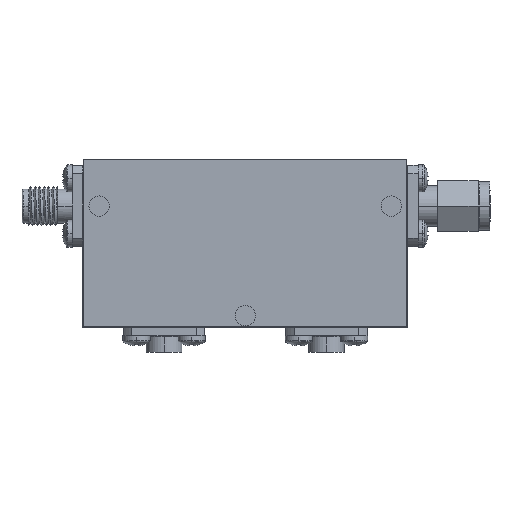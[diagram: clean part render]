
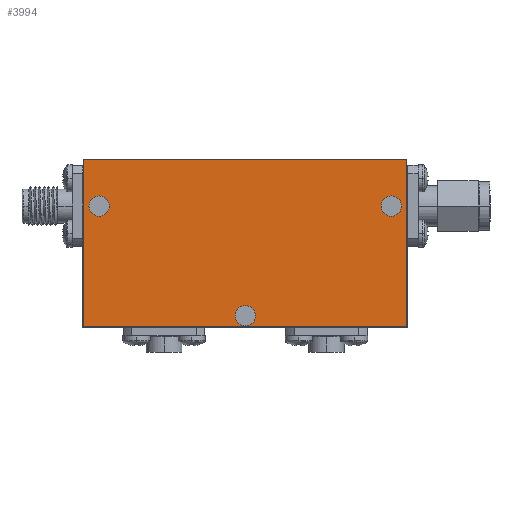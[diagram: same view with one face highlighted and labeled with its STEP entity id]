
A CAD part, top view. The second image highlights one B-rep face of the part: STEP entity #3994.
In plain terms, the highlighted planar face has unit normal (0, 0, 1).
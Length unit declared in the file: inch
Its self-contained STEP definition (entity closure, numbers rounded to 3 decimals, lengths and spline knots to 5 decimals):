
#70 = VECTOR ( 'NONE', #6876, 39.37008 ) ;
#100 = CARTESIAN_POINT ( 'NONE',  ( 0.0625, -0.445, 0.574 ) ) ;
#167 = VERTEX_POINT ( 'NONE', #4343 ) ;
#261 = VERTEX_POINT ( 'NONE', #1803 ) ;
#295 = FACE_BOUND ( 'NONE', #5810, .T. ) ;
#489 = CARTESIAN_POINT ( 'NONE',  ( -0.995, -0.515, 0.574 ) ) ;
#594 = EDGE_LOOP ( 'NONE', ( #1405, #4993, #6717, #1090 ) ) ;
#672 = VERTEX_POINT ( 'NONE', #5845 ) ;
#677 = ORIENTED_EDGE ( 'NONE', *, *, #6039, .F. ) ;
#704 = EDGE_CURVE ( 'NONE', #752, #4664, #2320, .T. ) ;
#752 = VERTEX_POINT ( 'NONE', #5919 ) ;
#864 = AXIS2_PLACEMENT_3D ( 'NONE', #6334, #6314, #6826 ) ;
#954 = AXIS2_PLACEMENT_3D ( 'NONE', #4988, #6524, #4603 ) ;
#1090 = ORIENTED_EDGE ( 'NONE', *, *, #4236, .T. ) ;
#1212 = DIRECTION ( 'NONE',  ( 1., 0., 0. ) ) ;
#1290 = VERTEX_POINT ( 'NONE', #2152 ) ;
#1336 = VECTOR ( 'NONE', #2262, 39.37008 ) ;
#1367 = VERTEX_POINT ( 'NONE', #5635 ) ;
#1405 = ORIENTED_EDGE ( 'NONE', *, *, #5700, .T. ) ;
#1425 = AXIS2_PLACEMENT_3D ( 'NONE', #4306, #1532, #3752 ) ;
#1455 = ORIENTED_EDGE ( 'NONE', *, *, #2909, .F. ) ;
#1532 = DIRECTION ( 'NONE',  ( 0., 0., 1. ) ) ;
#1556 = CARTESIAN_POINT ( 'NONE',  ( -0.9625, 0.23, 0.574 ) ) ;
#1594 = ORIENTED_EDGE ( 'NONE', *, *, #4592, .F. ) ;
#1634 = EDGE_CURVE ( 'NONE', #5860, #3728, #2697, .T. ) ;
#1685 = EDGE_LOOP ( 'NONE', ( #677, #1790 ) ) ;
#1790 = ORIENTED_EDGE ( 'NONE', *, *, #4688, .F. ) ;
#1803 = CARTESIAN_POINT ( 'NONE',  ( 0.8375, 0.23, 0.574 ) ) ;
#1810 = LINE ( 'NONE', #4174, #4838 ) ;
#1815 = CIRCLE ( 'NONE', #4821, 0.0625 ) ;
#2039 = AXIS2_PLACEMENT_3D ( 'NONE', #3834, #3317, #3770 ) ;
#2152 = CARTESIAN_POINT ( 'NONE',  ( 0.995, 0.515, 0.574 ) ) ;
#2262 = DIRECTION ( 'NONE',  ( 1., 0., 0. ) ) ;
#2320 = CIRCLE ( 'NONE', #1425, 0.0625 ) ;
#2425 = CIRCLE ( 'NONE', #2039, 0.0625 ) ;
#2569 = DIRECTION ( 'NONE',  ( 1., 0., 0. ) ) ;
#2697 = LINE ( 'NONE', #489, #70 ) ;
#2759 = LINE ( 'NONE', #6590, #1336 ) ;
#2867 = CARTESIAN_POINT ( 'NONE',  ( 0.995, -0.515, 0.574 ) ) ;
#2909 = EDGE_CURVE ( 'NONE', #261, #1367, #3694, .T. ) ;
#3037 = ORIENTED_EDGE ( 'NONE', *, *, #5776, .F. ) ;
#3067 = DIRECTION ( 'NONE',  ( -1., 0., 0. ) ) ;
#3267 = CARTESIAN_POINT ( 'NONE',  ( 0.9, 0.23, 0.574 ) ) ;
#3317 = DIRECTION ( 'NONE',  ( 0., 0., 1. ) ) ;
#3542 = EDGE_LOOP ( 'NONE', ( #1594, #4649 ) ) ;
#3694 = CIRCLE ( 'NONE', #4234, 0.0625 ) ;
#3728 = VERTEX_POINT ( 'NONE', #5515 ) ;
#3752 = DIRECTION ( 'NONE',  ( 1., 0., 0. ) ) ;
#3770 = DIRECTION ( 'NONE',  ( 1., 0., 0. ) ) ;
#3834 = CARTESIAN_POINT ( 'NONE',  ( -0.9, 0.23, 0.574 ) ) ;
#3987 = DIRECTION ( 'NONE',  ( 0., 1., 0. ) ) ;
#3994 = ADVANCED_FACE ( 'NONE', ( #4113, #295, #4758, #4270 ), #6852, .F. ) ;
#4113 = FACE_BOUND ( 'NONE', #3542, .T. ) ;
#4174 = CARTESIAN_POINT ( 'NONE',  ( -0.995, 0.515, 0.574 ) ) ;
#4202 = DIRECTION ( 'NONE',  ( 0., 0., 1. ) ) ;
#4234 = AXIS2_PLACEMENT_3D ( 'NONE', #3267, #6008, #1212 ) ;
#4236 = EDGE_CURVE ( 'NONE', #3728, #167, #2759, .T. ) ;
#4251 = LINE ( 'NONE', #2867, #4739 ) ;
#4270 = FACE_OUTER_BOUND ( 'NONE', #594, .T. ) ;
#4306 = CARTESIAN_POINT ( 'NONE',  ( 0., -0.445, 0.574 ) ) ;
#4343 = CARTESIAN_POINT ( 'NONE',  ( 0.995, -0.515, 0.574 ) ) ;
#4592 = EDGE_CURVE ( 'NONE', #4664, #752, #1815, .T. ) ;
#4603 = DIRECTION ( 'NONE',  ( 1., 0., 0. ) ) ;
#4649 = ORIENTED_EDGE ( 'NONE', *, *, #704, .F. ) ;
#4663 = CIRCLE ( 'NONE', #5169, 0.0625 ) ;
#4664 = VERTEX_POINT ( 'NONE', #100 ) ;
#4688 = EDGE_CURVE ( 'NONE', #5544, #672, #2425, .T. ) ;
#4698 = CARTESIAN_POINT ( 'NONE',  ( -0.9, 0.23, 0.574 ) ) ;
#4739 = VECTOR ( 'NONE', #3987, 39.37008 ) ;
#4758 = FACE_BOUND ( 'NONE', #1685, .T. ) ;
#4821 = AXIS2_PLACEMENT_3D ( 'NONE', #6931, #5385, #5890 ) ;
#4838 = VECTOR ( 'NONE', #3067, 39.37008 ) ;
#4873 = EDGE_CURVE ( 'NONE', #1290, #5860, #1810, .T. ) ;
#4988 = CARTESIAN_POINT ( 'NONE',  ( 0.9, 0.23, 0.574 ) ) ;
#4993 = ORIENTED_EDGE ( 'NONE', *, *, #4873, .T. ) ;
#5169 = AXIS2_PLACEMENT_3D ( 'NONE', #4698, #4202, #2569 ) ;
#5385 = DIRECTION ( 'NONE',  ( 0., 0., 1. ) ) ;
#5439 = CIRCLE ( 'NONE', #954, 0.0625 ) ;
#5515 = CARTESIAN_POINT ( 'NONE',  ( -0.995, -0.515, 0.574 ) ) ;
#5544 = VERTEX_POINT ( 'NONE', #1556 ) ;
#5635 = CARTESIAN_POINT ( 'NONE',  ( 0.9625, 0.23, 0.574 ) ) ;
#5700 = EDGE_CURVE ( 'NONE', #167, #1290, #4251, .T. ) ;
#5776 = EDGE_CURVE ( 'NONE', #1367, #261, #5439, .T. ) ;
#5810 = EDGE_LOOP ( 'NONE', ( #3037, #1455 ) ) ;
#5845 = CARTESIAN_POINT ( 'NONE',  ( -0.8375, 0.23, 0.574 ) ) ;
#5860 = VERTEX_POINT ( 'NONE', #6636 ) ;
#5890 = DIRECTION ( 'NONE',  ( 1., 0., 0. ) ) ;
#5919 = CARTESIAN_POINT ( 'NONE',  ( -0.0625, -0.445, 0.574 ) ) ;
#6008 = DIRECTION ( 'NONE',  ( 0., 0., 1. ) ) ;
#6039 = EDGE_CURVE ( 'NONE', #672, #5544, #4663, .T. ) ;
#6314 = DIRECTION ( 'NONE',  ( 0., 0., -1. ) ) ;
#6334 = CARTESIAN_POINT ( 'NONE',  ( 0., 0., 0.574 ) ) ;
#6524 = DIRECTION ( 'NONE',  ( 0., 0., 1. ) ) ;
#6590 = CARTESIAN_POINT ( 'NONE',  ( -0.995, -0.515, 0.574 ) ) ;
#6636 = CARTESIAN_POINT ( 'NONE',  ( -0.995, 0.515, 0.574 ) ) ;
#6717 = ORIENTED_EDGE ( 'NONE', *, *, #1634, .T. ) ;
#6826 = DIRECTION ( 'NONE',  ( -1., 0., 0. ) ) ;
#6852 = PLANE ( 'NONE',  #864 ) ;
#6876 = DIRECTION ( 'NONE',  ( 0., -1., 0. ) ) ;
#6931 = CARTESIAN_POINT ( 'NONE',  ( 0., -0.445, 0.574 ) ) ;
